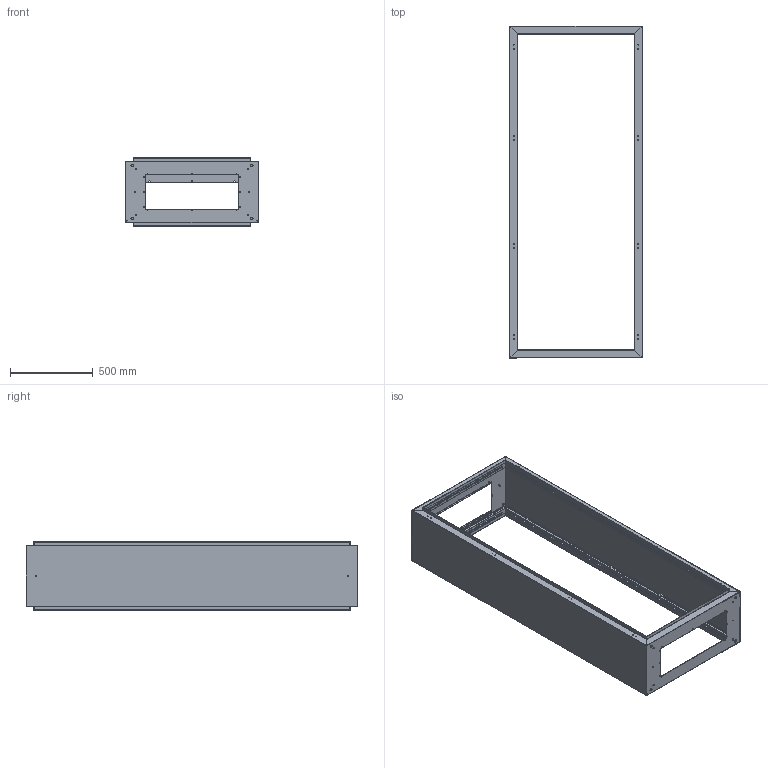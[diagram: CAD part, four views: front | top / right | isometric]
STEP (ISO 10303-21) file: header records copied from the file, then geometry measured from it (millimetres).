
FILE_DESCRIPTION (( 'STEP AP203' ), '1' );
FILE_NAME ('800x2000x400.STEP', '2021-11-11T16:48:29', ( '' ), ( '' ), 'SwSTEP 2.0', 'SolidWorks 2019', '' );
FILE_SCHEMA (( 'CONFIG_CONTROL_DESIGN' ));
Length unit declared in the file: millimetre
Products named in the file (4): Alt Kapak 1,5mm_monoblok_tekkapakrevize_PP 16.1019 800Gx400D ALT; Üst Kapak 1,5mm_monoblok_tekkapakrevize_PP 16.1010 800Gx400D šST; 800x2000x400; Yan Kapak 1,5mm_monoblok_tekkapakrevize_PP 16.1006 - 2000Yx400D YAN
Assembly tree (4 placements, depth 2):
  800x2000x400
    Alt Kapak 1,5mm_monoblok_tekkapakrevize_PP 16.1019 800Gx400D ALT
    Üst Kapak 1,5mm_monoblok_tekkapakrevize_PP 16.1010 800Gx400D šST
    Yan Kapak 1,5mm_monoblok_tekkapakrevize_PP 16.1006 - 2000Yx400D YAN  x2
Bounding box: 800 x 2000 x 412 mm (x, y, z)
Volume: 4994199.5 mm3; surface area: 6751945.7 mm2
Topology: 4 solids, 4 shells, 5420 faces, 15972 edges, 10568 vertices
Faces by surface type: plane 3532, cylinder 1872, bspline 16
Entity records: 121706 total; most frequent: CARTESIAN_POINT 21167, ORIENTED_EDGE 20656, DIRECTION 19726, EDGE_CURVE 10328, VECTOR 7904, LINE 7904, VERTEX_POINT 6824, AXIS2_PLACEMENT_3D 5911
